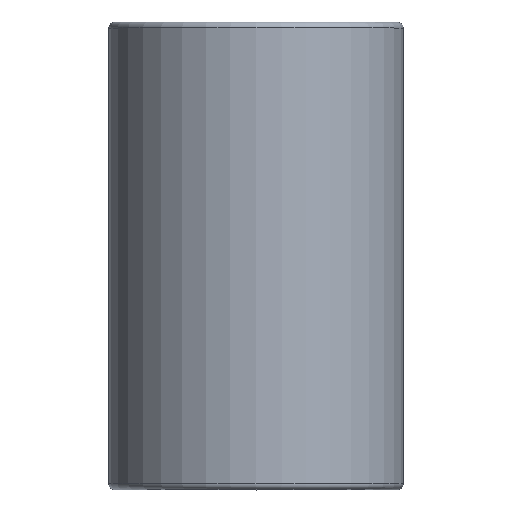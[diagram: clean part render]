
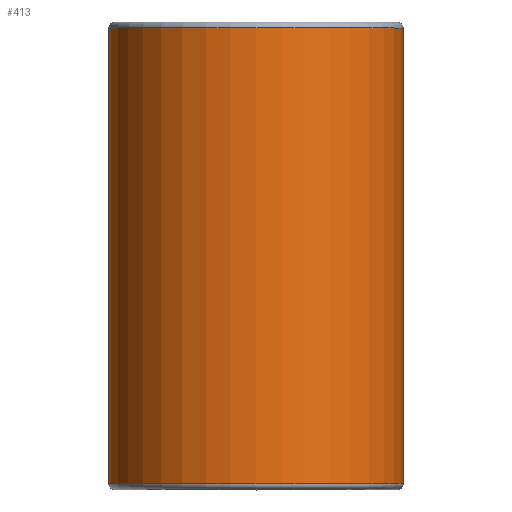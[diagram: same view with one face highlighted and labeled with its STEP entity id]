
A CAD part, top view. The second image highlights one B-rep face of the part: STEP entity #413.
In plain terms, the highlighted cylindrical face has radius 252 mm (diameter 504 mm), a full revolution.
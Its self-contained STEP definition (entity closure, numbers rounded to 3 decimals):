
#45=FACE_BOUND('',#139,.T.);
#91=FACE_OUTER_BOUND('',#138,.T.);
#138=EDGE_LOOP('',(#328));
#139=EDGE_LOOP('',(#329));
#204=CIRCLE('',#475,252.);
#206=CIRCLE('',#478,252.);
#242=VERTEX_POINT('',#722);
#244=VERTEX_POINT('',#727);
#280=EDGE_CURVE('',#242,#242,#204,.T.);
#282=EDGE_CURVE('',#244,#244,#206,.T.);
#328=ORIENTED_EDGE('',*,*,#282,.F.);
#329=ORIENTED_EDGE('',*,*,#280,.F.);
#386=CYLINDRICAL_SURFACE('',#477,252.);
#413=ADVANCED_FACE('',(#91,#45),#386,.T.);
#475=AXIS2_PLACEMENT_3D('',#723,#586,#587);
#477=AXIS2_PLACEMENT_3D('',#726,#590,#591);
#478=AXIS2_PLACEMENT_3D('',#728,#592,#593);
#586=DIRECTION('center_axis',(0.,1.,0.));
#587=DIRECTION('ref_axis',(1.,0.,0.));
#590=DIRECTION('center_axis',(0.,1.,0.));
#591=DIRECTION('ref_axis',(1.,0.,0.));
#592=DIRECTION('center_axis',(0.,-1.,0.));
#593=DIRECTION('ref_axis',(1.,0.,0.));
#722=CARTESIAN_POINT('',(-252.,390.,0.));
#723=CARTESIAN_POINT('Origin',(0.,390.,0.));
#726=CARTESIAN_POINT('Origin',(0.,0.,0.));
#727=CARTESIAN_POINT('',(-252.,-390.,0.));
#728=CARTESIAN_POINT('Origin',(0.,-390.,0.));
